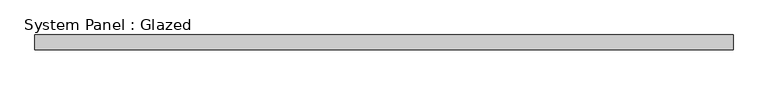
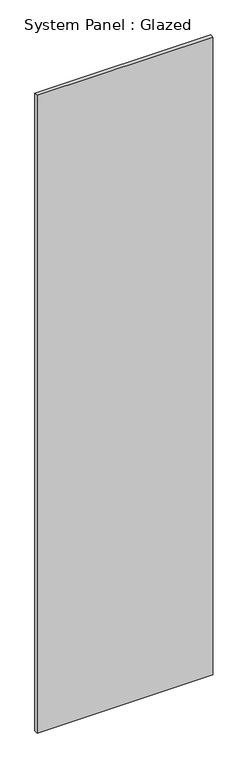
"""IFC4 building model written with IfcOpenShell, lengths in millimetres: plate geometry, System Panel : Glazed."""

import ifcopenshell
import ifcopenshell.guid

model = None  # the IFC model being written
_history = None  # IfcOwnerHistory: only IFC2X3 demands one
_inside = {}  # id of a spatial element -> (the spatial element, [elements in it])
_under = {}  # id of a project, library or spatial element -> (it, [spatial elements below it])
_declared = {}  # id of a project -> (the project, [libraries it declares])
_typed = {}  # id of a type object -> (the type object, [elements of that type])
_made_of = {}  # id of a material, layer set ... -> (it, [elements and type objects made of it])


def new_model(schema):
    """Start an empty IFC model of exactly this schema.

    Asked for "IFC4X3", IfcOpenShell would pick the latest addendum, in which some entities
    have other attributes; the version numbers below select the first issue.
    IFC2X3 requires an IfcOwnerHistory on every rooted entity: one is made here for all.
    """
    global model, _history
    if schema == "IFC4X3":
        model = ifcopenshell.file(schema_version=(4, 3, 0, 0))
    else:
        model = ifcopenshell.file(schema=schema)
    _inside.clear()
    _under.clear()
    _declared.clear()
    _typed.clear()
    _made_of.clear()
    _history = None
    if model.schema == "IFC2X3":
        org = make("IfcOrganization", Name="unknown")
        user = make(
            "IfcPersonAndOrganization",
            ThePerson=make("IfcPerson", FamilyName="unknown"),
            TheOrganization=org,
        )
        app = make(
            "IfcApplication",
            ApplicationDeveloper=org,
            Version="unknown",
            ApplicationFullName="unknown",
            ApplicationIdentifier="unknown",
        )
        _history = make(
            "IfcOwnerHistory",
            OwningUser=user,
            OwningApplication=app,
            ChangeAction="ADDED",
            CreationDate=0,
        )
    return model


def make(cls, **values):
    """One entity of the class cls with the attributes given. An attribute that is None is left unset."""
    return model.create_entity(
        cls, **{name: value for name, value in values.items() if value is not None}
    )


def rooted(cls, **values):
    """An entity with a GlobalId (a new one), such as an element, a storey or a relation."""
    return make(cls, GlobalId=ifcopenshell.guid.new(), OwnerHistory=_history, **values)


def si_unit(unit_type, name, prefix=None):
    """IfcSIUnit, for example si_unit("LENGTHUNIT", "METRE", prefix="MILLI")."""
    return make("IfcSIUnit", UnitType=unit_type, Prefix=prefix, Name=name)


def assignment(units):
    """IfcUnitAssignment: the units of a project."""
    return None if units is None else make("IfcUnitAssignment", Units=units)


def point(xyz):
    """IfcCartesianPoint."""
    return None if xyz is None else make("IfcCartesianPoint", Coordinates=xyz)


def direction(xyz):
    """IfcDirection."""
    return None if xyz is None else make("IfcDirection", DirectionRatios=xyz)


def frame(location, z_axis=None, x_axis=None):
    """IfcAxis2Placement3D, a coordinate frame: its origin and axes. An axis left out is left unset."""
    return make(
        "IfcAxis2Placement3D",
        Location=point(location),
        Axis=direction(z_axis),
        RefDirection=direction(x_axis),
    )


def origin():
    """The frame at (0, 0, 0) with its axes left unset."""
    return frame((0.0, 0.0, 0.0))


def origin_with_axes():
    """The frame at (0, 0, 0) with the z axis (0, 0, 1) and the x axis (1, 0, 0) written out."""
    return frame((0.0, 0.0, 0.0), z_axis=(0.0, 0.0, 1.0), x_axis=(1.0, 0.0, 0.0))


def place(relative_to, where):
    """IfcLocalPlacement: puts the frame where relative to a parent placement (None: the world)."""
    return make(
        "IfcLocalPlacement", PlacementRelTo=relative_to, RelativePlacement=where
    )


def context(
    kind, dimensions, precision=None, world=None, true_north=None, identifier=None
):
    """IfcGeometricRepresentationContext, for example the 3D "Model" context."""
    return make(
        "IfcGeometricRepresentationContext",
        ContextIdentifier=identifier,
        ContextType=kind,
        CoordinateSpaceDimension=dimensions,
        Precision=precision,
        WorldCoordinateSystem=world,
        TrueNorth=true_north,
    )


def project(units=None, contexts=None):
    """IfcProject with its units and contexts."""
    return rooted(
        "IfcProject",
        Name="project",
        RepresentationContexts=contexts,
        UnitsInContext=assignment(units),
    )


def spatial(cls, under=None, at=None, **own):
    """A site, building, storey or space (cls), placed at a placement, below another one or the project."""
    s = rooted(cls, ObjectPlacement=at, **own)
    if under is not None:
        _under.setdefault(under.id(), (under, []))[1].append(s)
    return s


def polyline(points):
    """IfcPolyline through the points."""
    return make("IfcPolyline", Points=[point(p) for p in points])


def outline(outer, holes=None, kind="AREA"):
    """IfcArbitraryClosedProfileDef: a profile drawn as a closed curve; with holes, ...WithVoids."""
    if holes is None:
        return make("IfcArbitraryClosedProfileDef", ProfileType=kind, OuterCurve=outer)
    return make(
        "IfcArbitraryProfileDefWithVoids",
        ProfileType=kind,
        OuterCurve=outer,
        InnerCurves=holes,
    )


def extrude(swept, where, along, depth):
    """IfcExtrudedAreaSolid: the profile swept, set in the frame where, extruded along a direction by depth."""
    return make(
        "IfcExtrudedAreaSolid",
        SweptArea=swept,
        Position=where,
        ExtrudedDirection=direction(along),
        Depth=depth,
    )


def shape(context_of_items, identifier, shape_type, items):
    """IfcShapeRepresentation: the items that make up one representation, for example the "Body"."""
    return make(
        "IfcShapeRepresentation",
        ContextOfItems=context_of_items,
        RepresentationIdentifier=identifier,
        RepresentationType=shape_type,
        Items=items,
    )


def source(mapping_origin, context_of_items, identifier, shape_type, items):
    """IfcRepresentationMap: a shape defined once, which mapped items show again and again."""
    return make(
        "IfcRepresentationMap",
        MappingOrigin=mapping_origin,
        MappedRepresentation=shape(context_of_items, identifier, shape_type, items),
    )


def transform(
    local_origin,
    x_axis=None,
    y_axis=None,
    z_axis=None,
    scale=None,
    scale2=None,
    scale3=None,
    uniform=True,
):
    """IfcCartesianTransformationOperator3D, or its non-uniform kind. x_axis, y_axis, z_axis: its Axis1, 2, 3."""
    if uniform:
        return make(
            "IfcCartesianTransformationOperator3D",
            Axis1=direction(x_axis),
            Axis2=direction(y_axis),
            LocalOrigin=point(local_origin),
            Scale=scale,
            Axis3=direction(z_axis),
        )
    return make(
        "IfcCartesianTransformationOperator3DnonUniform",
        Axis1=direction(x_axis),
        Axis2=direction(y_axis),
        LocalOrigin=point(local_origin),
        Scale=scale,
        Axis3=direction(z_axis),
        Scale2=scale2,
        Scale3=scale3,
    )


def mapped(mapping_source, mapping_target):
    """IfcMappedItem: shows the shape of a source again, moved by a transform."""
    return make(
        "IfcMappedItem", MappingSource=mapping_source, MappingTarget=mapping_target
    )


def made_of(thing, what):
    """Note that an element or type object is made of a material, layer set ...; save() writes the relation."""
    if what is not None:
        _made_of.setdefault(what.id(), (what, []))[1].append(thing)
    return thing


def element(
    cls,
    number,
    at=None,
    inside=None,
    cuts=None,
    type_object=None,
    material=None,
    context=None,
    identifier="Body",
    shape_type=None,
    held_by="IfcProductDefinitionShape",
    body=None,
    shapes=None,
    **own,
):
    """One element of the class cls, such as IfcWall. Its Tag is "e" and its number.

    at: its placement. inside: the storey or other place that contains it. cuts: it is an
    opening in that element (IfcRelVoidsElement). A single representation is given by context,
    identifier, shape_type and body (its items); several are given by shapes. held_by: the class
    of the entity that holds the representations. save() writes the other relations.
    """
    e = rooted(cls, Tag="e%d" % number, ObjectPlacement=at, **own)
    if body is not None:
        shapes = [shape(context, identifier, shape_type, body)]
    if shapes is not None:
        e.Representation = make(held_by, Representations=shapes)
    if inside is not None:
        _inside.setdefault(inside.id(), (inside, []))[1].append(e)
    if cuts is not None:
        rooted(
            "IfcRelVoidsElement", RelatingBuildingElement=cuts, RelatedOpeningElement=e
        )
    if type_object is not None:
        _typed.setdefault(type_object.id(), (type_object, []))[1].append(e)
    return made_of(e, material)


def aggregate(whole, parts):
    """IfcRelAggregates: a whole, such as a stair, and the parts it consists of."""
    return rooted("IfcRelAggregates", RelatingObject=whole, RelatedObjects=parts)


def save(model, path):
    """Write the relations noted so far, then the file.

    IfcRelAggregates (storeys below a building ...), IfcRelContainedInSpatialStructure (elements
    in a storey), IfcRelDefinesByType, IfcRelAssociatesMaterial and IfcRelDeclares: one each for
    every whole, place, type object, material and project.
    """
    for whole, parts in _under.values():
        aggregate(whole, parts)
    for where, things in _inside.values():
        rooted(
            "IfcRelContainedInSpatialStructure",
            RelatedElements=things,
            RelatingStructure=where,
        )
    for kind, things in _typed.values():
        rooted("IfcRelDefinesByType", RelatedObjects=things, RelatingType=kind)
    for what, things in _made_of.values():
        rooted("IfcRelAssociatesMaterial", RelatedObjects=things, RelatingMaterial=what)
    for by, libraries in _declared.values():
        rooted("IfcRelDeclares", RelatingContext=by, RelatedDefinitions=libraries)
    model.write(path)


def system_panel_glazed_26f8e022(model_context):
    return source(origin(), model_context, "Body", "SweptSolid", [
        extrude(outline(polyline([(603.7494819, 19.05), (-603.7494819, 19.05), (-603.7494819, 44.45), (603.7494819, 44.45), (603.7494819, 19.05)])), origin_with_axes(), (0.0, 0.0, 1.0), 4629.15),
    ])


if __name__ == "__main__":
    model = new_model("IFC4")
    model_context = context("Model", 3, world=origin())
    ifc_project = project(units=[si_unit("LENGTHUNIT", "METRE", prefix="MILLI")], contexts=[model_context])
    site = spatial("IfcSite", under=ifc_project)
    building = spatial("IfcBuilding", under=site)
    placement = place(None, origin())
    system_panel_glazed_shape = system_panel_glazed_26f8e022(model_context)
    element("IfcPlate", 1, ObjectType="System Panel : Glazed", at=placement, inside=building, context=model_context, shape_type="MappedRepresentation", body=[
        mapped(system_panel_glazed_shape, transform((0.0, 0.0, 0.0), x_axis=(1.0, 0.0, 0.0), y_axis=(0.0, 1.0, 0.0), z_axis=(0.0, 0.0, 1.0))),
    ])
    save(model, "model.ifc")
